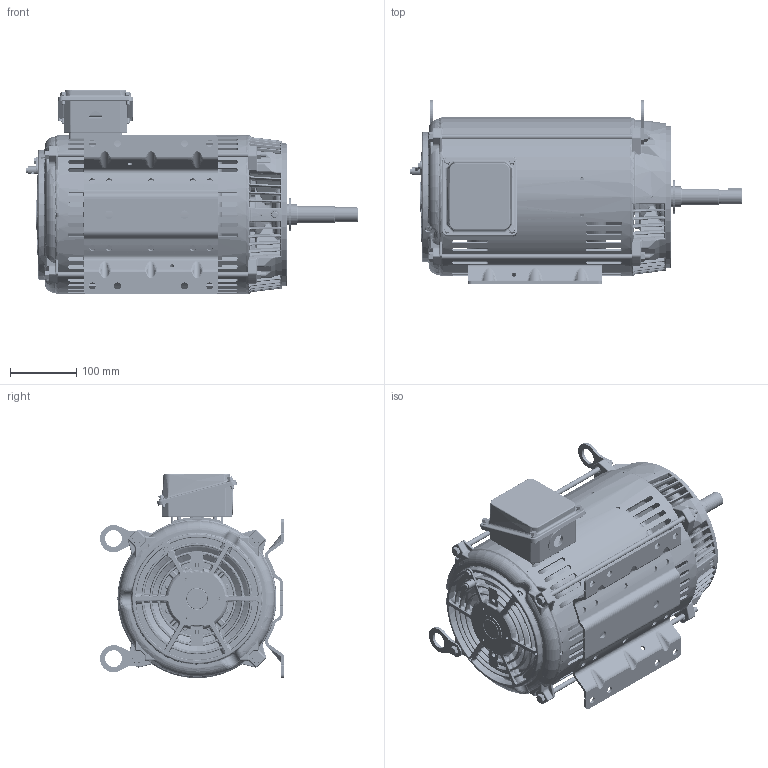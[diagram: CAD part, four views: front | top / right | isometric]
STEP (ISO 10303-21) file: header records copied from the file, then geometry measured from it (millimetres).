
FILE_DESCRIPTION (( 'STEP AP203' ), '1' );
FILE_NAME ('SS621172-100_RevA.STEP', '2022-02-15T14:14:16', ( '' ), ( '' ), 'SwSTEP 2.0', 'SolidWorks 2021', '' );
FILE_SCHEMA (( 'CONFIG_CONTROL_DESIGN' ));
Products named in the file (1): SS621172-100_RevA
Bounding box: 502.99 x 278.97 x 310.21 mm (x, y, z)
Volume: 7040490.8 mm3; surface area: 2012590.8 mm2
Topology: 60 solids, 62 shells, 8419 faces, 21601 edges, 12878 vertices
Faces by surface type: bspline 2613, plane 2224, cylinder 1784, torus 937, cone 680, sphere 181
Entity records: 358579 total; most frequent: CARTESIAN_POINT 177794, ORIENTED_EDGE 42438, DIRECTION 32464, EDGE_CURVE 21219, AXIS2_PLACEMENT_3D 13306, VERTEX_POINT 12874, EDGE_LOOP 8795, ADVANCED_FACE 8419
